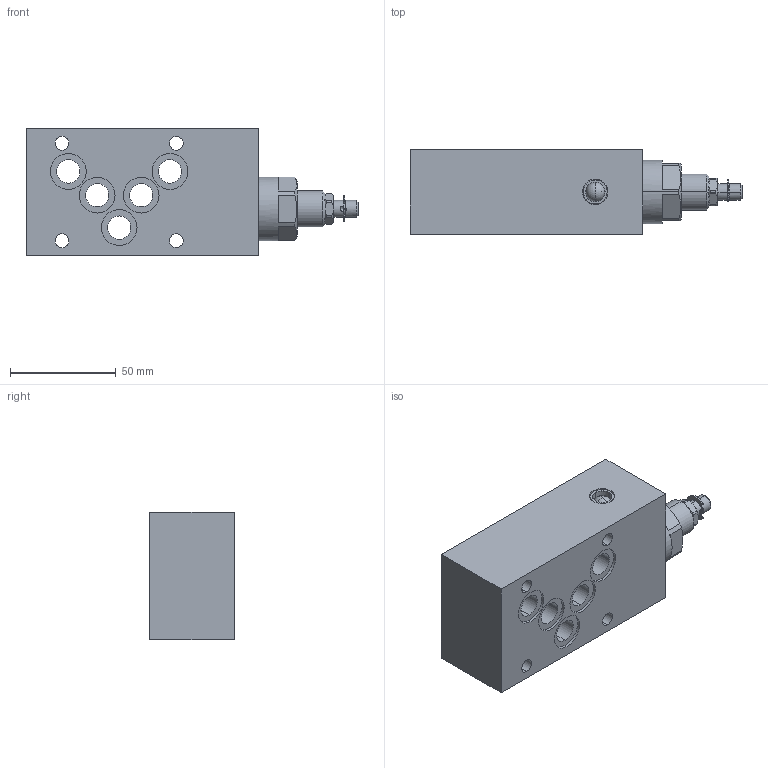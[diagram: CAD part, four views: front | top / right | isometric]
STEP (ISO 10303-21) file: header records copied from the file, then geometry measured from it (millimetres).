
FILE_DESCRIPTION (( 'STEP AP214' ), '1' );
FILE_NAME ('B.SSA10-B.STEP', '2017-03-23T07:29:14', ( '' ), ( '' ), 'SwSTEP 2.0', 'SolidWorks 2016', '' );
FILE_SCHEMA (( 'AUTOMOTIVE_DESIGN' ));
Length unit declared in the file: millimetre
Products named in the file (1): B.SSA10-B
Bounding box: 156.8 x 40 x 60 mm (x, y, z)
Volume: 255094.4 mm3; surface area: 43161.7 mm2
Topology: 5 solids, 7 shells, 214 faces, 532 edges, 335 vertices
Faces by surface type: cylinder 86, plane 71, cone 49, sphere 8
Entity records: 9057 total; most frequent: CARTESIAN_POINT 1428, DIRECTION 1155, ORIENTED_EDGE 1044, EDGE_CURVE 522, AXIS2_PLACEMENT_3D 474, VERTEX_POINT 335, CIRCLE 259, EDGE_LOOP 247
